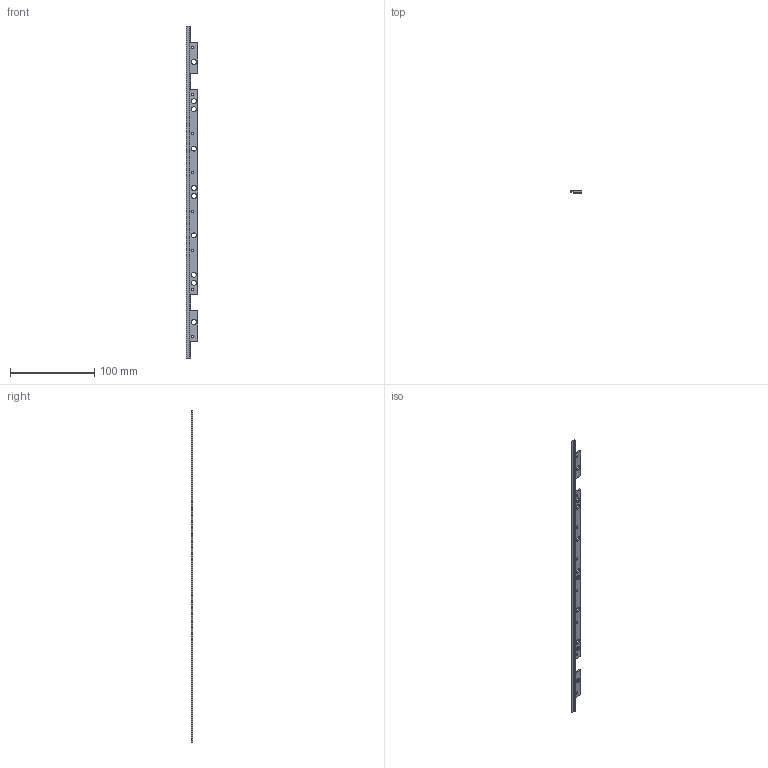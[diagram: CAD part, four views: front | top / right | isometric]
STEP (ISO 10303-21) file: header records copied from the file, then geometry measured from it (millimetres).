
FILE_DESCRIPTION(/* description */ (''),/* implementation_level */ '2;1');
FILE_NAME(/* name */ '210428_TubesOnTop_v1_lam2.stp',/* time_stamp */ '2021-09-10T14:14:56+02:00',/* author */ (''),/* organization */ (''),/* preprocessor_version */ 'ST-DEVELOPER v16.7',/* originating_system */ 'SIEMENS PLM Software NX 1919',/* authorisation */ '');
FILE_SCHEMA (('AUTOMOTIVE_DESIGN { 1 0 10303 214 3 1 1 1 }'));
Length unit declared in the file: millimetre
Products named in the file (1): 210428_TubesOnTop_v1_lam2
Bounding box: 14 x 2 x 395 mm (x, y, z)
Volume: 6791.7 mm3; surface area: 11078 mm2
Topology: 1 solids, 1 shells, 53 faces, 167 edges, 116 vertices
Faces by surface type: cylinder 25, plane 20, cone 8
Full cylindrical faces by diameter (mm): 2.7 x8, 6 x10
Entity records: 1659 total; most frequent: DIRECTION 285, CARTESIAN_POINT 267, ORIENTED_EDGE 238, EDGE_CURVE 119, EDGE_LOOP 115, AXIS2_PLACEMENT_3D 112, VERTEX_POINT 94, FACE_BOUND 90
